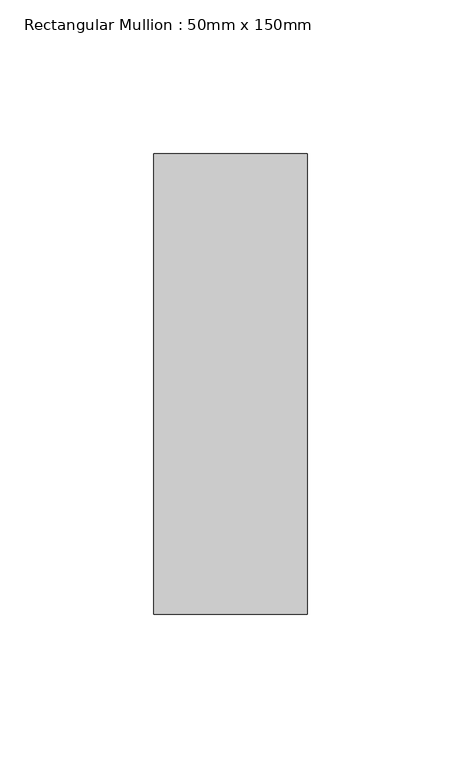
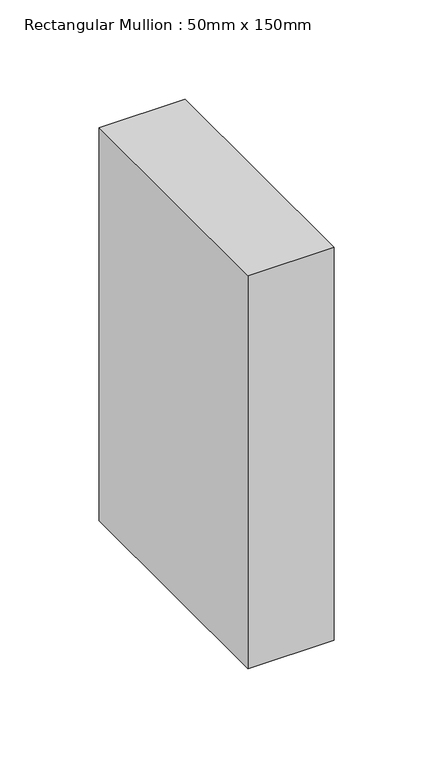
"""IFC4 building model written with IfcOpenShell, lengths in millimetres: member geometry, Rectangular Mullion : 50mm x 150mm."""

from ifc_helpers import new_model, si_unit, frame, origin, place, context, project, spatial, polyline, outline, extrude, source, transform, mapped, element, save


def rectangular_mullion_50mm_x_150mm_a6a3d5e8(model_context):
    return source(origin(), model_context, "Body", "SweptSolid", [
        extrude(outline(polyline([(0.0, 75.0), (0.0, -75.0), (-50.0, -75.0), (-50.0, 75.0), (0.0, 75.0)])), frame((0.0, 0.0, -241.7574195), z_axis=(0.0, 0.0, 1.0), x_axis=(1.0, 0.0, 0.0)), (0.0, 0.0, 1.0), 241.7574195),
    ])


if __name__ == "__main__":
    model = new_model("IFC4")
    model_context = context("Model", 3, world=origin())
    ifc_project = project(units=[si_unit("LENGTHUNIT", "METRE", prefix="MILLI")], contexts=[model_context])
    site = spatial("IfcSite", under=ifc_project)
    building = spatial("IfcBuilding", under=site)
    placement = place(None, origin())
    rectangular_mullion_50mm_x_150mm_shape = rectangular_mullion_50mm_x_150mm_a6a3d5e8(model_context)
    element("IfcMember", 1, ObjectType="Rectangular Mullion : 50mm x 150mm", at=placement, inside=building, context=model_context, shape_type="MappedRepresentation", body=[
        mapped(rectangular_mullion_50mm_x_150mm_shape, transform((0.0, 0.0, 0.0), x_axis=(1.0, 0.0, 0.0), y_axis=(0.0, 1.0, 0.0), z_axis=(0.0, 0.0, 1.0))),
    ])
    save(model, "model.ifc")
